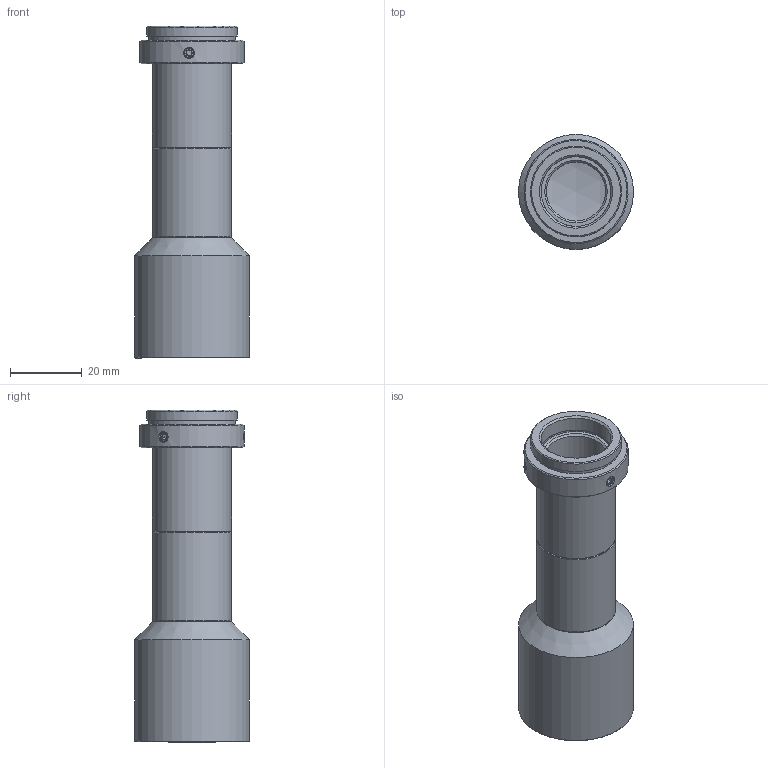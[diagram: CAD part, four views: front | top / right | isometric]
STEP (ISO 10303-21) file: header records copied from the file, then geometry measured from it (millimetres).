
FILE_DESCRIPTION(('STEP AP214'),'1');
FILE_NAME('RTK-05-M65.stp','2026-07-31T05:30:30',(' '),(' '),'Spatial InterOp 3D',' ',' ');
FILE_SCHEMA(('AUTOMOTIVE_DESIGN { 1 0 10303 214 1 1 1 1 }'));
Length unit declared in the file: metre
Products named in the file (2): RTK-05-M65; Component1
Assembly tree (1 placements, depth 2):
  RTK-05-M65
    Component1
Bounding box: 32 x 32 x 92.39 mm (x, y, z)
Volume: 14241.1 mm3; surface area: 17162.7 mm2
Topology: 1 solids, 1 shells, 107 faces, 258 edges, 172 vertices
Faces by surface type: plane 43, cone 38, cylinder 19, bspline 4, sphere 3
Full cylindrical faces by diameter (mm): 2.5 x3, 16.4 x1, 19 x1, 19.4 x1, 19.407 x1, 19.6 x1, 20 x1, 22 x2, 24.12 x1, 25.32 x1, 26.5 x1, 29 x1, 30 x1, 32 x1
Entity records: 4187 total; most frequent: CARTESIAN_POINT 1079, DIRECTION 450, ORIENTED_EDGE 396, EDGE_CURVE 198, AXIS2_PLACEMENT_3D 183, EDGE_LOOP 164, VERTEX_POINT 150, FACE_OUTER_BOUND 127
